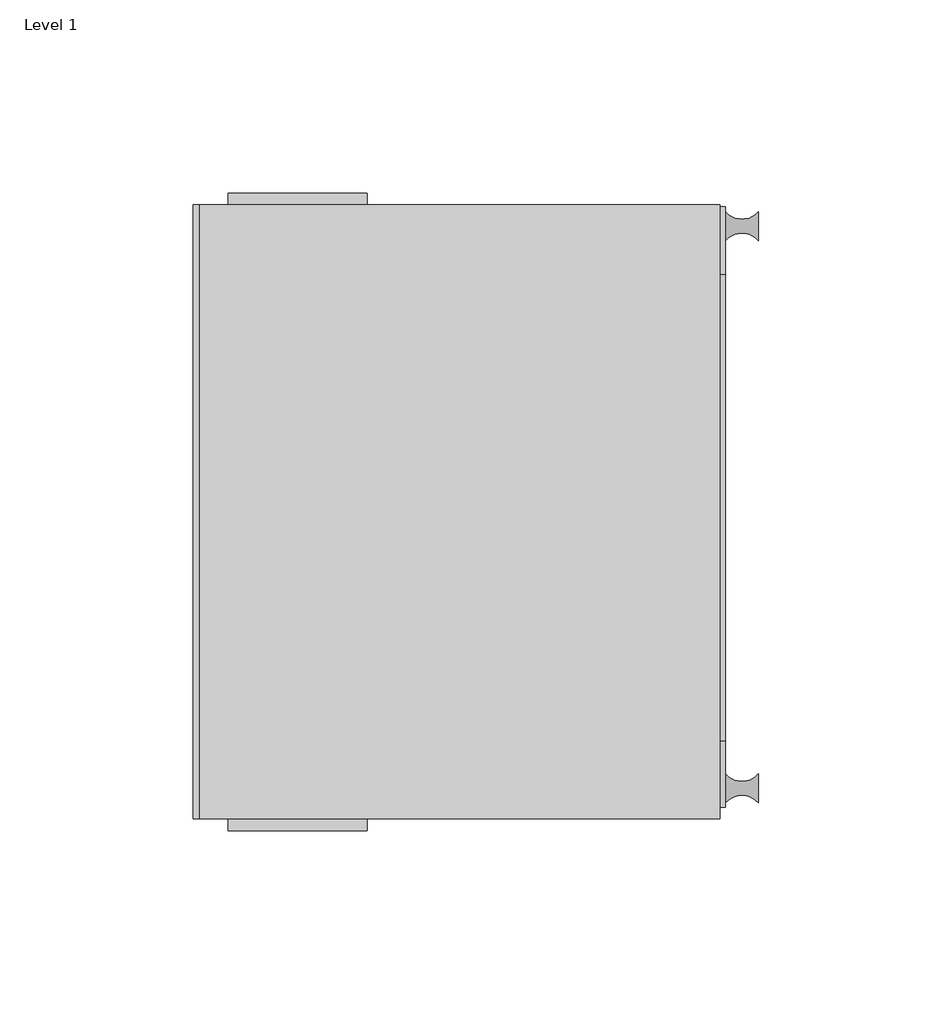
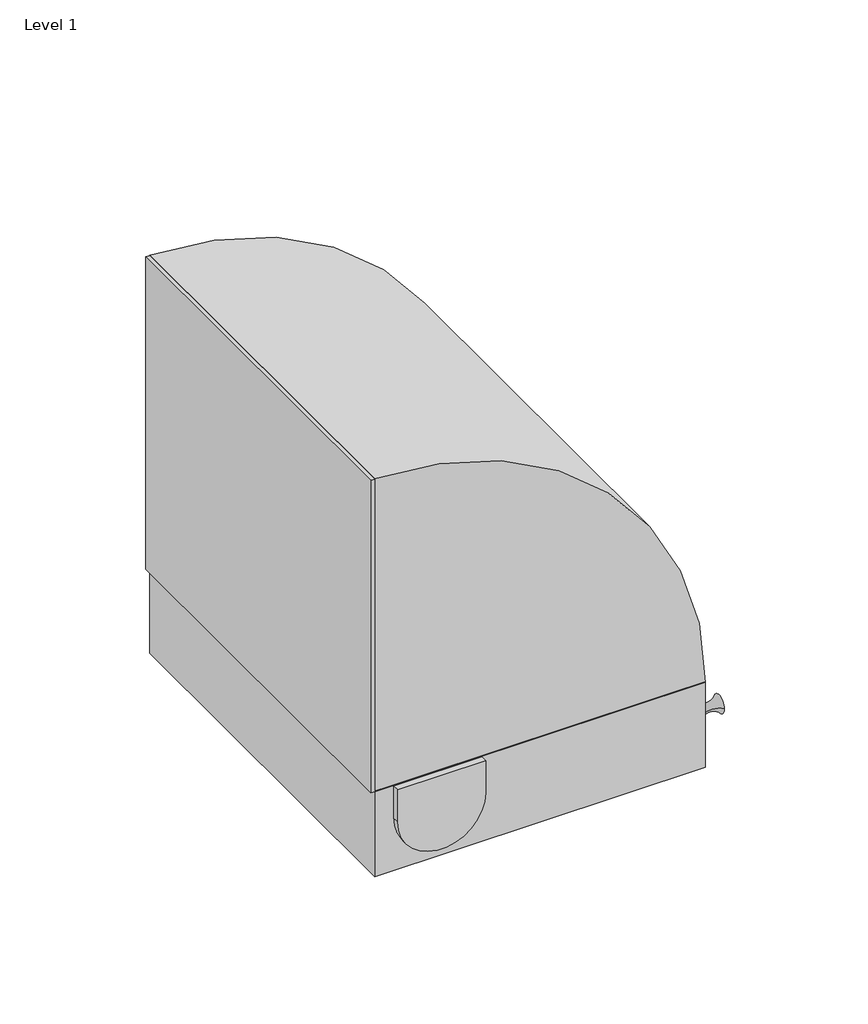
# One storey: 2 electric appliances.
"""IFC4 building model written with IfcOpenShell, lengths in millimetres."""

from ifc_helpers import new_model, si_unit, origin, place, context, project, spatial, transform, mapped, element, save
from components import electric_appliance_42aa6d9b, electric_appliance_1_panel_40815d9f

model = new_model("IFC4")

# Units and contexts
model_context = context("Model", 3, world=origin())
ifc_project = project(units=[si_unit("LENGTHUNIT", "METRE", prefix="MILLI")], contexts=[model_context])

# Site, building, storey
site = spatial("IfcSite", under=ifc_project)
building = spatial("IfcBuilding", under=site)
storey = spatial("IfcBuildingStorey", under=building, Name="Level 1", Elevation=0.0)

# Electric appliances
placement = place(None, origin())
electric_appliance_shape = electric_appliance_42aa6d9b(model_context)
element("IfcElectricAppliance", 1, ObjectType="Adapter_Panel-Fiber-Corning-LANScape-CCH : 6 F, LC Duplex, multimode (OM1)", at=placement, inside=storey, context=model_context, shape_type="MappedRepresentation", body=[
    mapped(electric_appliance_shape, transform((3105.5115501, 1705.1903335, 19.08175), x_axis=(0.0, 0.0, -1.0), y_axis=(0.0, 1.0, 0.0), z_axis=(1.0, 0.0, 0.0))),
])
electric_appliance_1_panel_shape = electric_appliance_1_panel_40815d9f(model_context)
element("IfcElectricAppliance", 2, ObjectType="Housing-Wall_Mount-Corning-Single_Panel : 1 Panel", at=placement, inside=storey, context=model_context, shape_type="MappedRepresentation", body=[
    mapped(electric_appliance_1_panel_shape, transform((3038.2015501, 1705.1903335, 0.0), x_axis=(1.0, 0.0, 0.0), y_axis=(0.0, 1.0, 0.0), z_axis=(0.0, 0.0, 1.0))),
])

save(model, "model.ifc")
